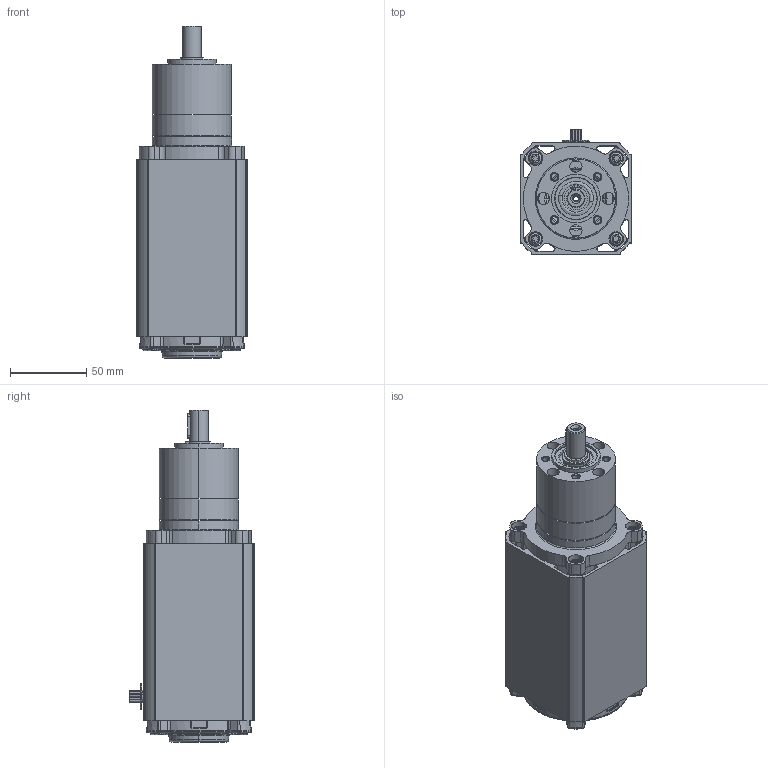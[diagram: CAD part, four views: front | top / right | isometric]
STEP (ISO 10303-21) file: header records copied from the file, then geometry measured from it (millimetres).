
FILE_DESCRIPTION (( 'STEP AP214' ), '1' );
FILE_NAME ('BL6540-PL5200i_1S.STEP', '2013-03-04T14:38:07', ( '' ), ( '' ), 'SwSTEP 2.0', 'SolidWorks 2013', '' );
FILE_SCHEMA (( 'AUTOMOTIVE_DESIGN' ));
Length unit declared in the file: inch
Products named in the file (1): BL6540-PL5200i_1S
Bounding box: 73.36 x 82.37 x 218.26 mm (x, y, z)
Surface area: 106486.2 mm2 (no closed solid volume)
Topology: 0 solids, 54 shells, 924 faces, 3155 edges, 2235 vertices
Faces by surface type: cylinder 387, plane 264, torus 100, cone 95, bspline 74, sphere 4
Entity records: 51524 total; most frequent: CARTESIAN_POINT 12796, DIRECTION 5629, ORIENTED_EDGE 5152, EDGE_CURVE 3151, VERTEX_POINT 2235, AXIS2_PLACEMENT_3D 2126, LINE 1377, VECTOR 1377
